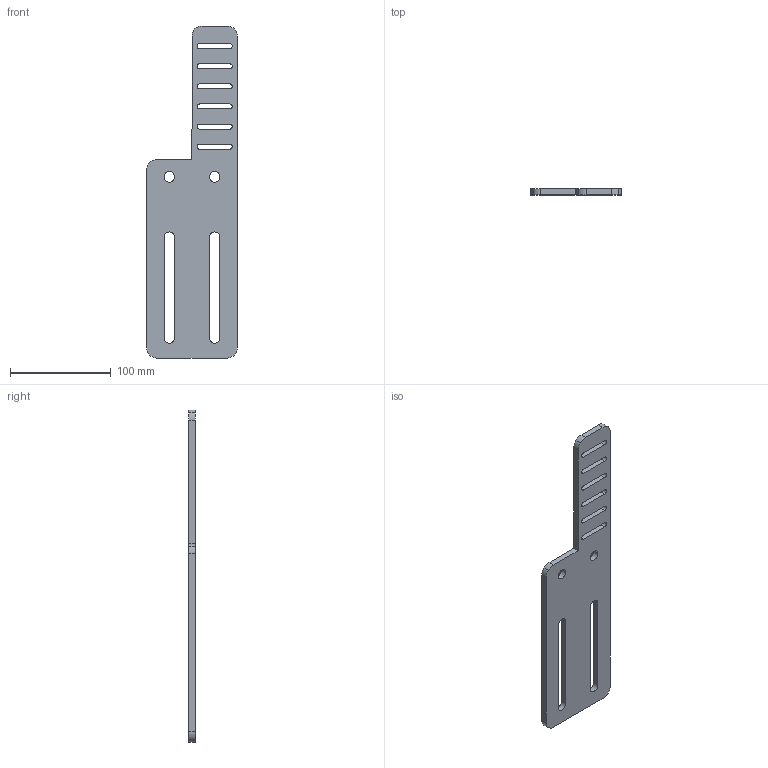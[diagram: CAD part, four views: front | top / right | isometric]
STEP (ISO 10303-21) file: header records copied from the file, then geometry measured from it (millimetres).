
FILE_DESCRIPTION (( 'STEP AP203' ), '1' );
FILE_NAME ('N510239_1_Schienenbefestigung Band Safe.STEP', '2019-07-15T08:28:17', ( '' ), ( '' ), 'SwSTEP 2.0', 'SolidWorks 2017', '' );
FILE_SCHEMA (( 'CONFIG_CONTROL_DESIGN' ));
Length unit declared in the file: millimetre
Products named in the file (1): N510239_1_Schienenbefestigung Band Safe
Bounding box: 90 x 6 x 330 mm (x, y, z)
Volume: 120914.4 mm3; surface area: 51133.2 mm2
Topology: 1 solids, 1 shells, 54 faces, 156 edges, 104 vertices
Faces by surface type: cylinder 30, plane 24
Entity records: 1917 total; most frequent: DIRECTION 326, CARTESIAN_POINT 315, ORIENTED_EDGE 312, EDGE_CURVE 156, AXIS2_PLACEMENT_3D 115, VERTEX_POINT 104, LINE 96, VECTOR 96
